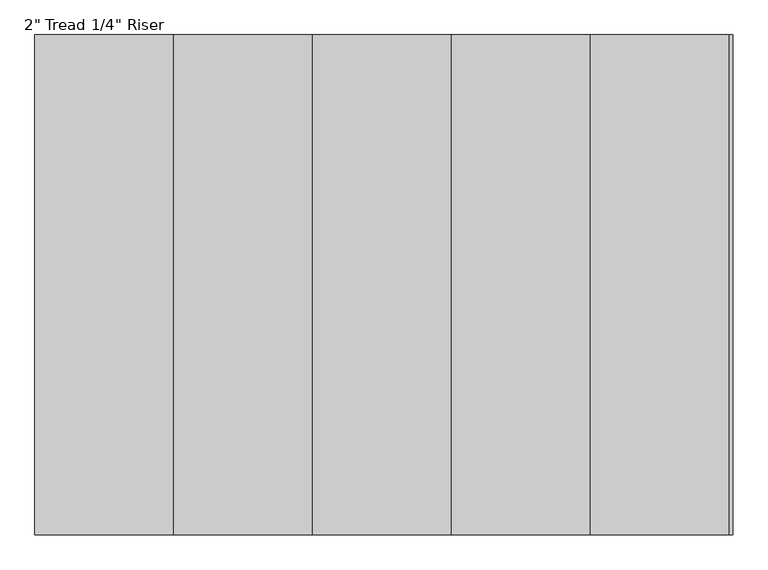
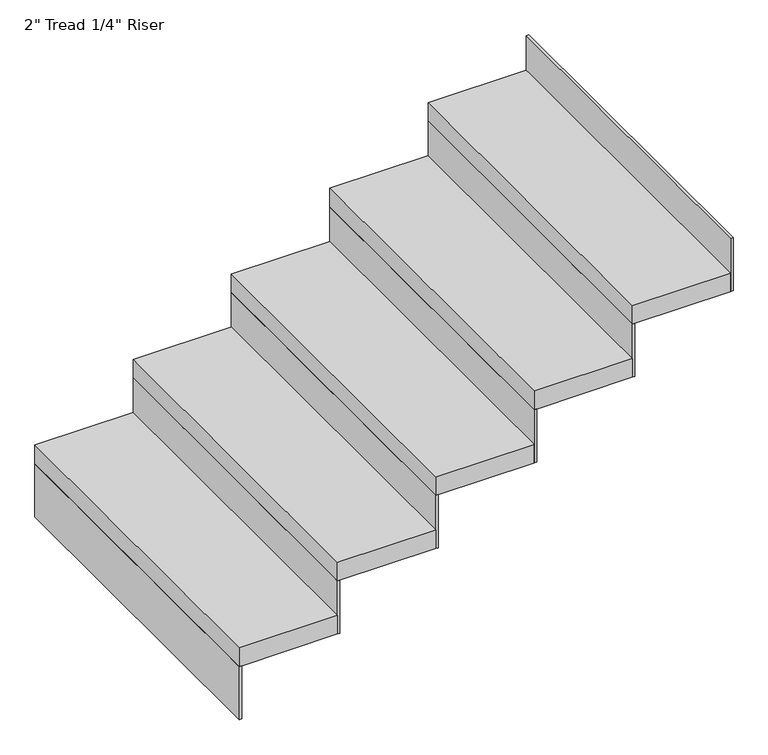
"""IFC4 building model written with IfcOpenShell, lengths in millimetres: stair flight geometry."""

import ifcopenshell
import ifcopenshell.guid

model = None  # the IFC model being written
_history = None  # IfcOwnerHistory: only IFC2X3 demands one
_inside = {}  # id of a spatial element -> (the spatial element, [elements in it])
_under = {}  # id of a project, library or spatial element -> (it, [spatial elements below it])
_declared = {}  # id of a project -> (the project, [libraries it declares])
_typed = {}  # id of a type object -> (the type object, [elements of that type])
_made_of = {}  # id of a material, layer set ... -> (it, [elements and type objects made of it])


def new_model(schema):
    """Start an empty IFC model of exactly this schema.

    Asked for "IFC4X3", IfcOpenShell would pick the latest addendum, in which some entities
    have other attributes; the version numbers below select the first issue.
    IFC2X3 requires an IfcOwnerHistory on every rooted entity: one is made here for all.
    """
    global model, _history
    if schema == "IFC4X3":
        model = ifcopenshell.file(schema_version=(4, 3, 0, 0))
    else:
        model = ifcopenshell.file(schema=schema)
    _inside.clear()
    _under.clear()
    _declared.clear()
    _typed.clear()
    _made_of.clear()
    _history = None
    if model.schema == "IFC2X3":
        org = make("IfcOrganization", Name="unknown")
        user = make(
            "IfcPersonAndOrganization",
            ThePerson=make("IfcPerson", FamilyName="unknown"),
            TheOrganization=org,
        )
        app = make(
            "IfcApplication",
            ApplicationDeveloper=org,
            Version="unknown",
            ApplicationFullName="unknown",
            ApplicationIdentifier="unknown",
        )
        _history = make(
            "IfcOwnerHistory",
            OwningUser=user,
            OwningApplication=app,
            ChangeAction="ADDED",
            CreationDate=0,
        )
    return model


def make(cls, **values):
    """One entity of the class cls with the attributes given. An attribute that is None is left unset."""
    return model.create_entity(
        cls, **{name: value for name, value in values.items() if value is not None}
    )


def rooted(cls, **values):
    """An entity with a GlobalId (a new one), such as an element, a storey or a relation."""
    return make(cls, GlobalId=ifcopenshell.guid.new(), OwnerHistory=_history, **values)


def si_unit(unit_type, name, prefix=None):
    """IfcSIUnit, for example si_unit("LENGTHUNIT", "METRE", prefix="MILLI")."""
    return make("IfcSIUnit", UnitType=unit_type, Prefix=prefix, Name=name)


def assignment(units):
    """IfcUnitAssignment: the units of a project."""
    return None if units is None else make("IfcUnitAssignment", Units=units)


def point(xyz):
    """IfcCartesianPoint."""
    return None if xyz is None else make("IfcCartesianPoint", Coordinates=xyz)


def direction(xyz):
    """IfcDirection."""
    return None if xyz is None else make("IfcDirection", DirectionRatios=xyz)


def frame(location, z_axis=None, x_axis=None):
    """IfcAxis2Placement3D, a coordinate frame: its origin and axes. An axis left out is left unset."""
    return make(
        "IfcAxis2Placement3D",
        Location=point(location),
        Axis=direction(z_axis),
        RefDirection=direction(x_axis),
    )


def origin():
    """The frame at (0, 0, 0) with its axes left unset."""
    return frame((0.0, 0.0, 0.0))


def place(relative_to, where):
    """IfcLocalPlacement: puts the frame where relative to a parent placement (None: the world)."""
    return make(
        "IfcLocalPlacement", PlacementRelTo=relative_to, RelativePlacement=where
    )


def context(
    kind, dimensions, precision=None, world=None, true_north=None, identifier=None
):
    """IfcGeometricRepresentationContext, for example the 3D "Model" context."""
    return make(
        "IfcGeometricRepresentationContext",
        ContextIdentifier=identifier,
        ContextType=kind,
        CoordinateSpaceDimension=dimensions,
        Precision=precision,
        WorldCoordinateSystem=world,
        TrueNorth=true_north,
    )


def project(units=None, contexts=None):
    """IfcProject with its units and contexts."""
    return rooted(
        "IfcProject",
        Name="project",
        RepresentationContexts=contexts,
        UnitsInContext=assignment(units),
    )


def spatial(cls, under=None, at=None, **own):
    """A site, building, storey or space (cls), placed at a placement, below another one or the project."""
    s = rooted(cls, ObjectPlacement=at, **own)
    if under is not None:
        _under.setdefault(under.id(), (under, []))[1].append(s)
    return s


def polyline(points):
    """IfcPolyline through the points."""
    return make("IfcPolyline", Points=[point(p) for p in points])


def outline(outer, holes=None, kind="AREA"):
    """IfcArbitraryClosedProfileDef: a profile drawn as a closed curve; with holes, ...WithVoids."""
    if holes is None:
        return make("IfcArbitraryClosedProfileDef", ProfileType=kind, OuterCurve=outer)
    return make(
        "IfcArbitraryProfileDefWithVoids",
        ProfileType=kind,
        OuterCurve=outer,
        InnerCurves=holes,
    )


def extrude(swept, where, along, depth):
    """IfcExtrudedAreaSolid: the profile swept, set in the frame where, extruded along a direction by depth."""
    return make(
        "IfcExtrudedAreaSolid",
        SweptArea=swept,
        Position=where,
        ExtrudedDirection=direction(along),
        Depth=depth,
    )


def shape(context_of_items, identifier, shape_type, items):
    """IfcShapeRepresentation: the items that make up one representation, for example the "Body"."""
    return make(
        "IfcShapeRepresentation",
        ContextOfItems=context_of_items,
        RepresentationIdentifier=identifier,
        RepresentationType=shape_type,
        Items=items,
    )


def source(mapping_origin, context_of_items, identifier, shape_type, items):
    """IfcRepresentationMap: a shape defined once, which mapped items show again and again."""
    return make(
        "IfcRepresentationMap",
        MappingOrigin=mapping_origin,
        MappedRepresentation=shape(context_of_items, identifier, shape_type, items),
    )


def transform(
    local_origin,
    x_axis=None,
    y_axis=None,
    z_axis=None,
    scale=None,
    scale2=None,
    scale3=None,
    uniform=True,
):
    """IfcCartesianTransformationOperator3D, or its non-uniform kind. x_axis, y_axis, z_axis: its Axis1, 2, 3."""
    if uniform:
        return make(
            "IfcCartesianTransformationOperator3D",
            Axis1=direction(x_axis),
            Axis2=direction(y_axis),
            LocalOrigin=point(local_origin),
            Scale=scale,
            Axis3=direction(z_axis),
        )
    return make(
        "IfcCartesianTransformationOperator3DnonUniform",
        Axis1=direction(x_axis),
        Axis2=direction(y_axis),
        LocalOrigin=point(local_origin),
        Scale=scale,
        Axis3=direction(z_axis),
        Scale2=scale2,
        Scale3=scale3,
    )


def mapped(mapping_source, mapping_target):
    """IfcMappedItem: shows the shape of a source again, moved by a transform."""
    return make(
        "IfcMappedItem", MappingSource=mapping_source, MappingTarget=mapping_target
    )


def made_of(thing, what):
    """Note that an element or type object is made of a material, layer set ...; save() writes the relation."""
    if what is not None:
        _made_of.setdefault(what.id(), (what, []))[1].append(thing)
    return thing


def element(
    cls,
    number,
    at=None,
    inside=None,
    cuts=None,
    type_object=None,
    material=None,
    context=None,
    identifier="Body",
    shape_type=None,
    held_by="IfcProductDefinitionShape",
    body=None,
    shapes=None,
    **own,
):
    """One element of the class cls, such as IfcWall. Its Tag is "e" and its number.

    at: its placement. inside: the storey or other place that contains it. cuts: it is an
    opening in that element (IfcRelVoidsElement). A single representation is given by context,
    identifier, shape_type and body (its items); several are given by shapes. held_by: the class
    of the entity that holds the representations. save() writes the other relations.
    """
    e = rooted(cls, Tag="e%d" % number, ObjectPlacement=at, **own)
    if body is not None:
        shapes = [shape(context, identifier, shape_type, body)]
    if shapes is not None:
        e.Representation = make(held_by, Representations=shapes)
    if inside is not None:
        _inside.setdefault(inside.id(), (inside, []))[1].append(e)
    if cuts is not None:
        rooted(
            "IfcRelVoidsElement", RelatingBuildingElement=cuts, RelatedOpeningElement=e
        )
    if type_object is not None:
        _typed.setdefault(type_object.id(), (type_object, []))[1].append(e)
    return made_of(e, material)


def aggregate(whole, parts):
    """IfcRelAggregates: a whole, such as a stair, and the parts it consists of."""
    return rooted("IfcRelAggregates", RelatingObject=whole, RelatedObjects=parts)


def save(model, path):
    """Write the relations noted so far, then the file.

    IfcRelAggregates (storeys below a building ...), IfcRelContainedInSpatialStructure (elements
    in a storey), IfcRelDefinesByType, IfcRelAssociatesMaterial and IfcRelDeclares: one each for
    every whole, place, type object, material and project.
    """
    for whole, parts in _under.values():
        aggregate(whole, parts)
    for where, things in _inside.values():
        rooted(
            "IfcRelContainedInSpatialStructure",
            RelatedElements=things,
            RelatingStructure=where,
        )
    for kind, things in _typed.values():
        rooted("IfcRelDefinesByType", RelatedObjects=things, RelatingType=kind)
    for what, things in _made_of.values():
        rooted("IfcRelAssociatesMaterial", RelatedObjects=things, RelatingMaterial=what)
    for by, libraries in _declared.values():
        rooted("IfcRelDeclares", RelatingContext=by, RelatedDefinitions=libraries)
    model.write(path)


def stair_flight_100dd306(model_context):
    return source(origin(), model_context, "Body", "SweptSolid", [
        extrude(outline(polyline([(34250.3491768, 43330.9361774), (34243.9991768, 43330.9361774), (34243.9991768, 44245.3361774), (34250.3491768, 44245.3361774), (34250.3491768, 43330.9361774)])), frame((0.0, 0.0, 2126.3428571), z_axis=(0.0, 0.0, 1.0), x_axis=(1.0, 0.0, 0.0)), (0.0, 0.0, 1.0), 145.1428571),
        extrude(outline(polyline([(34497.9991768, 44245.3361774), (34497.9991768, 43330.9361774), (34243.9991768, 43330.9361774), (34243.9991768, 44245.3361774), (34497.9991768, 44245.3361774)])), frame((0.0, 0.0, 2271.4857143), z_axis=(0.0, 0.0, 1.0), x_axis=(1.0, 0.0, 0.0)), (0.0, 0.0, 1.0), 50.8),
        extrude(outline(polyline([(34504.3491768, 43330.9361774), (34497.9991768, 43330.9361774), (34497.9991768, 44245.3361774), (34504.3491768, 44245.3361774), (34504.3491768, 43330.9361774)])), frame((0.0, 0.0, 2271.4857143), z_axis=(0.0, 0.0, 1.0), x_axis=(1.0, 0.0, 0.0)), (0.0, 0.0, 1.0), 145.1428571),
        extrude(outline(polyline([(34751.9991768, 44245.3361774), (34751.9991768, 43330.9361774), (34497.9991768, 43330.9361774), (34497.9991768, 44245.3361774), (34751.9991768, 44245.3361774)])), frame((0.0, 0.0, 2416.6285714), z_axis=(0.0, 0.0, 1.0), x_axis=(1.0, 0.0, 0.0)), (0.0, 0.0, 1.0), 50.8),
        extrude(outline(polyline([(34758.3491768, 43330.9361774), (34751.9991768, 43330.9361774), (34751.9991768, 44245.3361774), (34758.3491768, 44245.3361774), (34758.3491768, 43330.9361774)])), frame((0.0, 0.0, 2416.6285714), z_axis=(0.0, 0.0, 1.0), x_axis=(1.0, 0.0, 0.0)), (0.0, 0.0, 1.0), 145.1428571),
        extrude(outline(polyline([(35005.9991768, 44245.3361774), (35005.9991768, 43330.9361774), (34751.9991768, 43330.9361774), (34751.9991768, 44245.3361774), (35005.9991768, 44245.3361774)])), frame((0.0, 0.0, 2561.7714286), z_axis=(0.0, 0.0, 1.0), x_axis=(1.0, 0.0, 0.0)), (0.0, 0.0, 1.0), 50.8),
        extrude(outline(polyline([(35012.3491768, 43330.9361774), (35005.9991768, 43330.9361774), (35005.9991768, 44245.3361774), (35012.3491768, 44245.3361774), (35012.3491768, 43330.9361774)])), frame((0.0, 0.0, 2561.7714286), z_axis=(0.0, 0.0, 1.0), x_axis=(1.0, 0.0, 0.0)), (0.0, 0.0, 1.0), 145.1428571),
        extrude(outline(polyline([(35259.9991768, 44245.3361774), (35259.9991768, 43330.9361774), (35005.9991768, 43330.9361774), (35005.9991768, 44245.3361774), (35259.9991768, 44245.3361774)])), frame((0.0, 0.0, 2706.9142857), z_axis=(0.0, 0.0, 1.0), x_axis=(1.0, 0.0, 0.0)), (0.0, 0.0, 1.0), 50.8),
        extrude(outline(polyline([(35266.3491768, 43330.9361774), (35259.9991768, 43330.9361774), (35259.9991768, 44245.3361774), (35266.3491768, 44245.3361774), (35266.3491768, 43330.9361774)])), frame((0.0, 0.0, 2706.9142857), z_axis=(0.0, 0.0, 1.0), x_axis=(1.0, 0.0, 0.0)), (0.0, 0.0, 1.0), 145.1428571),
        extrude(outline(polyline([(35520.3491768, 43330.9361774), (35513.9991768, 43330.9361774), (35513.9991768, 44245.3361774), (35520.3491768, 44245.3361774), (35520.3491768, 43330.9361774)])), frame((0.0, 0.0, 2852.0571429), z_axis=(0.0, 0.0, 1.0), x_axis=(1.0, 0.0, 0.0)), (0.0, 0.0, 1.0), 145.1428571),
        extrude(outline(polyline([(35513.9991768, 44245.3361774), (35513.9991768, 43330.9361774), (35259.9991768, 43330.9361774), (35259.9991768, 44245.3361774), (35513.9991768, 44245.3361774)])), frame((0.0, 0.0, 2852.0571429), z_axis=(0.0, 0.0, 1.0), x_axis=(1.0, 0.0, 0.0)), (0.0, 0.0, 1.0), 50.8),
    ])


if __name__ == "__main__":
    model = new_model("IFC4")
    model_context = context("Model", 3, world=origin())
    ifc_project = project(units=[si_unit("LENGTHUNIT", "METRE", prefix="MILLI")], contexts=[model_context])
    site = spatial("IfcSite", under=ifc_project)
    building = spatial("IfcBuilding", under=site)
    placement = place(None, origin())
    stair_flight_shape = stair_flight_100dd306(model_context)
    element("IfcStairFlight", 1, ObjectType="2\" Tread 1/4\" Riser", at=placement, inside=building, context=model_context, shape_type="MappedRepresentation", body=[
        mapped(stair_flight_shape, transform((0.0, 0.0, 0.0), x_axis=(1.0, 0.0, 0.0), y_axis=(0.0, 1.0, 0.0), z_axis=(0.0, 0.0, 1.0))),
    ])
    save(model, "model.ifc")
